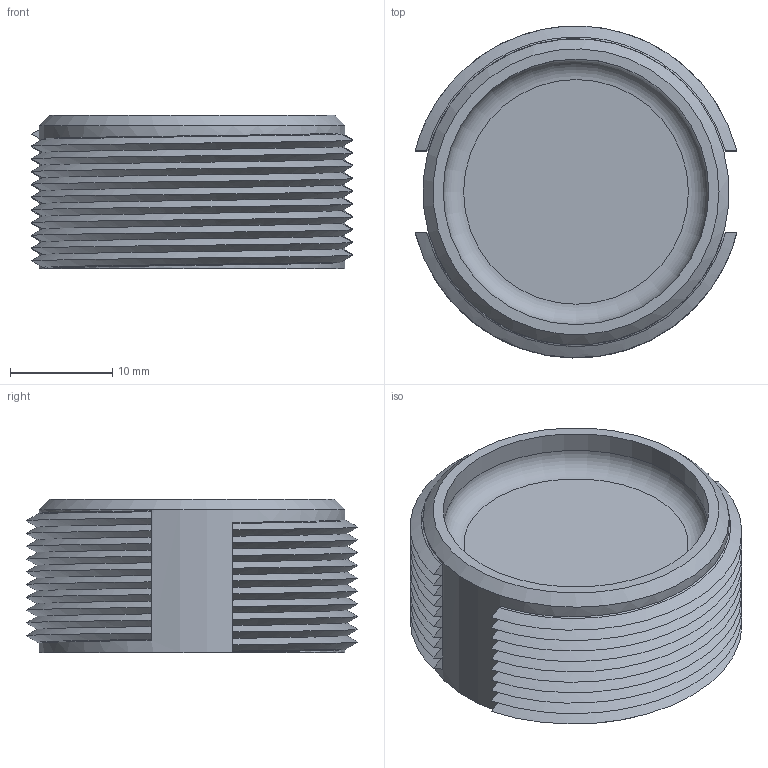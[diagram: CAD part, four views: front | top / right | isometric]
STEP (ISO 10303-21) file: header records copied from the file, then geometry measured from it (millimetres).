
FILE_DESCRIPTION(/* description */ ('Alibre Inc.'),/* implementation_level */ '2;1');
FILE_NAME(/* name */ 'export0',/* time_stamp */ '2013-07-17T09:29:21-06:00',/* author */ (''),/* organization */ (''),/* preprocessor_version */ 'ST-DEVELOPER v14',/* originating_system */ 'Alibre',/* authorisation */ '');
FILE_SCHEMA (('ALIBRE_SCHEMA','CONFIG_CONTROL_DESIGN'));
Length unit declared in the file: centimetre
Products named in the file (1): ID_1
Bounding box: 31.49 x 32.49 x 15 mm (x, y, z)
Volume: 8896.3 mm3; surface area: 4414.4 mm2
Topology: 1 solids, 1 shells, 63 faces, 162 edges, 107 vertices
Faces by surface type: bspline 44, plane 11, cylinder 6, torus 1, cone 1
Full cylindrical faces by diameter (mm): 5 x4, 26 x1, 30 x1
Entity records: 24748 total; most frequent: CARTESIAN_POINT 22507, ORIENTED_EDGE 304, EDGE_CURVE 152, PERSISTANTTOPOLOGYATTRIBUTE 141, DIRECTION 108, VERTEX_POINT 106, B_SPLINE_CURVE_WITH_KNOTS 94, REFERENCEDEPENDENTUV 90
